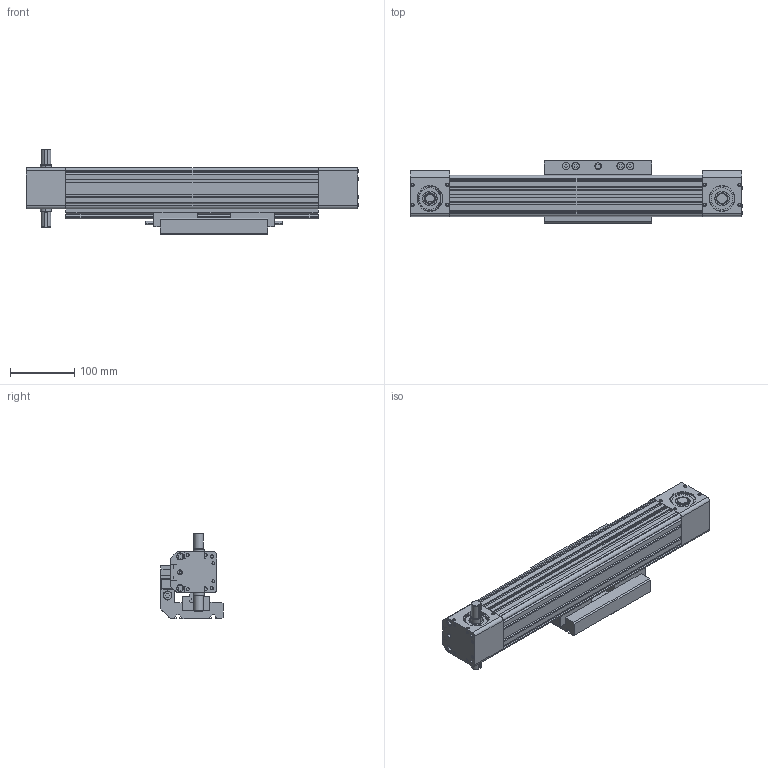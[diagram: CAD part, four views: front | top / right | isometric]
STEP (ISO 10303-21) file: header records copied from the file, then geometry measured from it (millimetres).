
FILE_DESCRIPTION((''),'2;1');
FILE_NAME('TCDH65-S150','2018-02-03T',('lenovo'),(''),'PRO/ENGINEER BY PARAMETRIC TECHNOLOGY CORPORATION, 2010280','PRO/ENGINEER BY PARAMETRIC TECHNOLOGY CORPORATION, 2010280','');
FILE_SCHEMA(('CONFIG_CONTROL_DESIGN'));
Products named in the file (1): TCDH65-S150
Bounding box: 516 x 96.5 x 132.5 mm (x, y, z)
Surface area: 528885 mm2 (no closed solid volume)
Topology: 0 solids, 42 shells, 2209 faces, 5857 edges, 3846 vertices
Faces by surface type: plane 1117, cylinder 810, cone 230, torus 52
Entity records: 69792 total; most frequent: CARTESIAN_POINT 13056, DIRECTION 12205, ORIENTED_EDGE 11638, EDGE_CURVE 5857, AXIS2_PLACEMENT_3D 4335, VERTEX_POINT 3846, VECTOR 3535, LINE 3535
